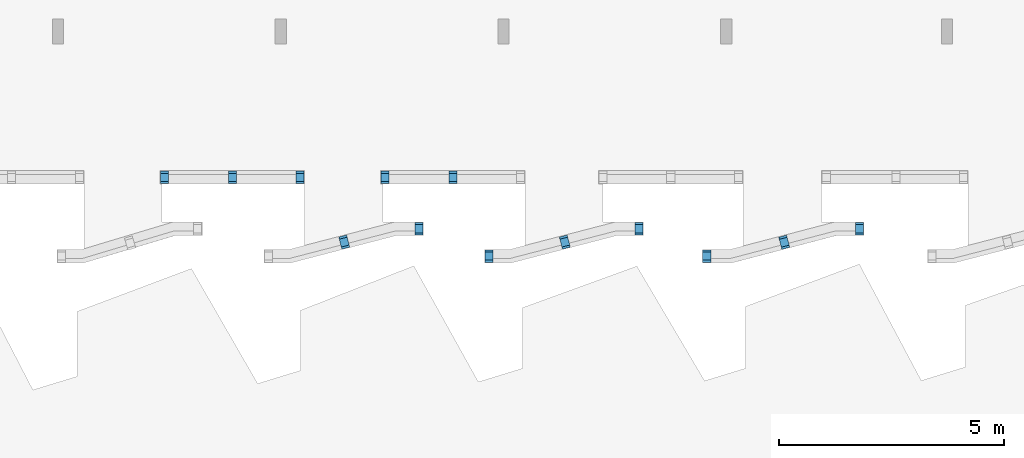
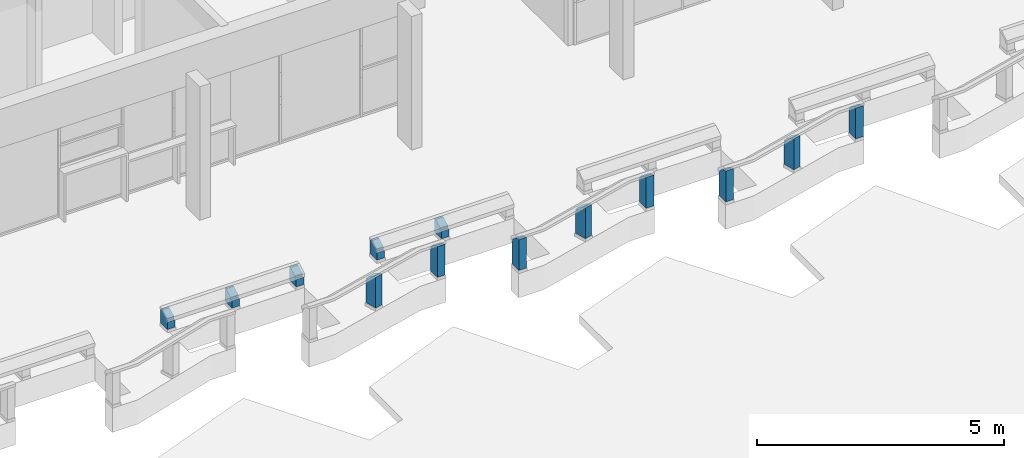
# One storey, part 94 of 117: 13 walls, 13 openings.
"""IFC4 building model written with IfcOpenShell, lengths in metres."""

import ifcopenshell
import ifcopenshell.guid

model = None  # the IFC model being written
_history = None  # IfcOwnerHistory: only IFC2X3 demands one
_inside = {}  # id of a spatial element -> (the spatial element, [elements in it])
_under = {}  # id of a project, library or spatial element -> (it, [spatial elements below it])
_declared = {}  # id of a project -> (the project, [libraries it declares])
_typed = {}  # id of a type object -> (the type object, [elements of that type])
_made_of = {}  # id of a material, layer set ... -> (it, [elements and type objects made of it])


def new_model(schema):
    """Start an empty IFC model of exactly this schema.

    Asked for "IFC4X3", IfcOpenShell would pick the latest addendum, in which some entities
    have other attributes; the version numbers below select the first issue.
    IFC2X3 requires an IfcOwnerHistory on every rooted entity: one is made here for all.
    """
    global model, _history
    if schema == "IFC4X3":
        model = ifcopenshell.file(schema_version=(4, 3, 0, 0))
    else:
        model = ifcopenshell.file(schema=schema)
    _inside.clear()
    _under.clear()
    _declared.clear()
    _typed.clear()
    _made_of.clear()
    _history = None
    if model.schema == "IFC2X3":
        org = make("IfcOrganization", Name="unknown")
        user = make(
            "IfcPersonAndOrganization",
            ThePerson=make("IfcPerson", FamilyName="unknown"),
            TheOrganization=org,
        )
        app = make(
            "IfcApplication",
            ApplicationDeveloper=org,
            Version="unknown",
            ApplicationFullName="unknown",
            ApplicationIdentifier="unknown",
        )
        _history = make(
            "IfcOwnerHistory",
            OwningUser=user,
            OwningApplication=app,
            ChangeAction="ADDED",
            CreationDate=0,
        )
    return model


def make(cls, **values):
    """One entity of the class cls with the attributes given. An attribute that is None is left unset."""
    return model.create_entity(
        cls, **{name: value for name, value in values.items() if value is not None}
    )


def entity(cls, *values):
    """Any entity or typed value of the class cls, its attributes in the order of the schema. None: left unset."""
    e = model.create_entity(cls)
    for i, value in enumerate(values):
        if value is not None:
            e[i] = value
    return e


def rooted(cls, **values):
    """An entity with a GlobalId (a new one), such as an element, a storey or a relation."""
    return make(cls, GlobalId=ifcopenshell.guid.new(), OwnerHistory=_history, **values)


def si_unit(unit_type, name, prefix=None):
    """IfcSIUnit, for example si_unit("LENGTHUNIT", "METRE", prefix="MILLI")."""
    return make("IfcSIUnit", UnitType=unit_type, Prefix=prefix, Name=name)


def converted_unit(unit_type, name, factor, base, dimensions=None, offset=None):
    """IfcConversionBasedUnit, such as the inch: factor (a typed value) times the base unit."""
    return make(
        "IfcConversionBasedUnit"
        if offset is None
        else "IfcConversionBasedUnitWithOffset",
        ConversionOffset=offset,
        Dimensions=None
        if dimensions is None
        else entity("IfcDimensionalExponents", *dimensions),
        UnitType=unit_type,
        Name=name,
        ConversionFactor=make(
            "IfcMeasureWithUnit", ValueComponent=factor, UnitComponent=base
        ),
    )


def derived_unit(unit_type, elements):
    """IfcDerivedUnit: a product of units, each with its exponent."""
    return make(
        "IfcDerivedUnit",
        Elements=[
            make("IfcDerivedUnitElement", Unit=unit, Exponent=power)
            for unit, power in elements
        ],
        UnitType=unit_type,
    )


def assignment(units):
    """IfcUnitAssignment: the units of a project."""
    return None if units is None else make("IfcUnitAssignment", Units=units)


def point(xyz):
    """IfcCartesianPoint."""
    return None if xyz is None else make("IfcCartesianPoint", Coordinates=xyz)


def direction(xyz):
    """IfcDirection."""
    return None if xyz is None else make("IfcDirection", DirectionRatios=xyz)


def frame(location, z_axis=None, x_axis=None):
    """IfcAxis2Placement3D, a coordinate frame: its origin and axes. An axis left out is left unset."""
    return make(
        "IfcAxis2Placement3D",
        Location=point(location),
        Axis=direction(z_axis),
        RefDirection=direction(x_axis),
    )


def origin():
    """The frame at (0, 0, 0) with its axes left unset."""
    return frame((0.0, 0.0, 0.0))


def place(relative_to, where):
    """IfcLocalPlacement: puts the frame where relative to a parent placement (None: the world)."""
    return make(
        "IfcLocalPlacement", PlacementRelTo=relative_to, RelativePlacement=where
    )


def context(
    kind, dimensions, precision=None, world=None, true_north=None, identifier=None
):
    """IfcGeometricRepresentationContext, for example the 3D "Model" context."""
    return make(
        "IfcGeometricRepresentationContext",
        ContextIdentifier=identifier,
        ContextType=kind,
        CoordinateSpaceDimension=dimensions,
        Precision=precision,
        WorldCoordinateSystem=world,
        TrueNorth=true_north,
    )


def subcontext(parent, identifier, kind, view, scale=None):
    """IfcGeometricRepresentationSubContext, for example "Body" below "Model"."""
    return make(
        "IfcGeometricRepresentationSubContext",
        ContextIdentifier=identifier,
        ContextType=kind,
        ParentContext=parent,
        TargetScale=scale,
        TargetView=view,
    )


def project(units=None, contexts=None):
    """IfcProject with its units and contexts."""
    return rooted(
        "IfcProject",
        Name="project",
        RepresentationContexts=contexts,
        UnitsInContext=assignment(units),
    )


def spatial(cls, under=None, at=None, **own):
    """A site, building, storey or space (cls), placed at a placement, below another one or the project."""
    s = rooted(cls, ObjectPlacement=at, **own)
    if under is not None:
        _under.setdefault(under.id(), (under, []))[1].append(s)
    return s


def point_list(points):
    """IfcCartesianPointList2D or 3D."""
    cls = (
        "IfcCartesianPointList2D" if len(points[0]) == 2 else "IfcCartesianPointList3D"
    )
    return make(cls, CoordList=points)


def indexed_curve(points, segments=None, self_intersect=None):
    """IfcIndexedPolyCurve: lines and arcs through numbered points (the first is 1)."""
    return make(
        "IfcIndexedPolyCurve",
        Points=point_list(points),
        Segments=segments,
        SelfIntersect=self_intersect,
    )


def outline(outer, holes=None, kind="AREA"):
    """IfcArbitraryClosedProfileDef: a profile drawn as a closed curve; with holes, ...WithVoids."""
    if holes is None:
        return make("IfcArbitraryClosedProfileDef", ProfileType=kind, OuterCurve=outer)
    return make(
        "IfcArbitraryProfileDefWithVoids",
        ProfileType=kind,
        OuterCurve=outer,
        InnerCurves=holes,
    )


def extrude(swept, where, along, depth):
    """IfcExtrudedAreaSolid: the profile swept, set in the frame where, extruded along a direction by depth."""
    return make(
        "IfcExtrudedAreaSolid",
        SweptArea=swept,
        Position=where,
        ExtrudedDirection=direction(along),
        Depth=depth,
    )


def polygons(points, faces, closed=None, point_numbers=None):
    """IfcPolygonalFaceSet: a face is its outer loop, then its inner loops; points numbered from 1."""
    made = []
    for loops in faces:
        if len(loops) == 1:
            made.append(make("IfcIndexedPolygonalFace", CoordIndex=loops[0]))
        else:
            made.append(
                make(
                    "IfcIndexedPolygonalFaceWithVoids",
                    CoordIndex=loops[0],
                    InnerCoordIndices=loops[1:],
                )
            )
    return make(
        "IfcPolygonalFaceSet",
        Coordinates=point_list(points),
        Closed=closed,
        Faces=made,
        PnIndex=point_numbers,
    )


def shape(context_of_items, identifier, shape_type, items):
    """IfcShapeRepresentation: the items that make up one representation, for example the "Body"."""
    return make(
        "IfcShapeRepresentation",
        ContextOfItems=context_of_items,
        RepresentationIdentifier=identifier,
        RepresentationType=shape_type,
        Items=items,
    )


def material(Name=None, Category=None):
    """IfcMaterial."""
    return make("IfcMaterial", Name=Name, Category=Category)


def made_of(thing, what):
    """Note that an element or type object is made of a material, layer set ...; save() writes the relation."""
    if what is not None:
        _made_of.setdefault(what.id(), (what, []))[1].append(thing)
    return thing


def type_object(cls, material=None, **own):
    """A type object (cls), such as IfcWallType, which elements share."""
    return made_of(rooted(cls, **own), material)


def element(
    cls,
    number,
    at=None,
    inside=None,
    cuts=None,
    type_object=None,
    material=None,
    context=None,
    identifier="Body",
    shape_type=None,
    held_by="IfcProductDefinitionShape",
    body=None,
    shapes=None,
    **own,
):
    """One element of the class cls, such as IfcWall. Its Tag is "e" and its number.

    at: its placement. inside: the storey or other place that contains it. cuts: it is an
    opening in that element (IfcRelVoidsElement). A single representation is given by context,
    identifier, shape_type and body (its items); several are given by shapes. held_by: the class
    of the entity that holds the representations. save() writes the other relations.
    """
    e = rooted(cls, Tag="e%d" % number, ObjectPlacement=at, **own)
    if body is not None:
        shapes = [shape(context, identifier, shape_type, body)]
    if shapes is not None:
        e.Representation = make(held_by, Representations=shapes)
    if inside is not None:
        _inside.setdefault(inside.id(), (inside, []))[1].append(e)
    if cuts is not None:
        rooted(
            "IfcRelVoidsElement", RelatingBuildingElement=cuts, RelatedOpeningElement=e
        )
    if type_object is not None:
        _typed.setdefault(type_object.id(), (type_object, []))[1].append(e)
    return made_of(e, material)


def aggregate(whole, parts):
    """IfcRelAggregates: a whole, such as a stair, and the parts it consists of."""
    return rooted("IfcRelAggregates", RelatingObject=whole, RelatedObjects=parts)


def save(model, path):
    """Write the relations noted so far, then the file.

    IfcRelAggregates (storeys below a building ...), IfcRelContainedInSpatialStructure (elements
    in a storey), IfcRelDefinesByType, IfcRelAssociatesMaterial and IfcRelDeclares: one each for
    every whole, place, type object, material and project.
    """
    for whole, parts in _under.values():
        aggregate(whole, parts)
    for where, things in _inside.values():
        rooted(
            "IfcRelContainedInSpatialStructure",
            RelatedElements=things,
            RelatingStructure=where,
        )
    for kind, things in _typed.values():
        rooted("IfcRelDefinesByType", RelatedObjects=things, RelatingType=kind)
    for what, things in _made_of.values():
        rooted("IfcRelAssociatesMaterial", RelatedObjects=things, RelatingMaterial=what)
    for by, libraries in _declared.values():
        rooted("IfcRelDeclares", RelatingContext=by, RelatedDefinitions=libraries)
    model.write(path)


model = new_model("IFC4")

# Units and contexts
model_context = context("Model", 3, precision=1e-05, world=origin(), true_north=direction((6.123031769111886e-17, 1.0)))
body_context = subcontext(model_context, "Body", "Model", "MODEL_VIEW")
ifc_project = project(units=[si_unit("LENGTHUNIT", "METRE"), si_unit("AREAUNIT", "SQUARE_METRE"), si_unit("VOLUMEUNIT", "CUBIC_METRE"), converted_unit("PLANEANGLEUNIT", "DEGREE", entity("IfcRatioMeasure", 0.017453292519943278), si_unit("PLANEANGLEUNIT", "RADIAN"), dimensions=[0, 0, 0, 0, 0, 0, 0]), si_unit("MASSUNIT", "GRAM", prefix="KILO"), derived_unit("MASSDENSITYUNIT", [(si_unit("MASSUNIT", "GRAM", prefix="KILO"), 1), (si_unit("LENGTHUNIT", "METRE"), -3)]), derived_unit("MOMENTOFINERTIAUNIT", [(si_unit("LENGTHUNIT", "METRE"), 4)]), si_unit("TIMEUNIT", "SECOND"), si_unit("FREQUENCYUNIT", "HERTZ"), si_unit("THERMODYNAMICTEMPERATUREUNIT", "DEGREE_CELSIUS"), derived_unit("THERMALTRANSMITTANCEUNIT", [(si_unit("MASSUNIT", "GRAM", prefix="KILO"), 1), (si_unit("THERMODYNAMICTEMPERATUREUNIT", "KELVIN"), -1), (si_unit("TIMEUNIT", "SECOND"), -3)]), derived_unit("VOLUMETRICFLOWRATEUNIT", [(si_unit("LENGTHUNIT", "METRE"), 3), (si_unit("TIMEUNIT", "SECOND"), -1)]), derived_unit("MASSFLOWRATEUNIT", [(si_unit("MASSUNIT", "GRAM", prefix="KILO"), 1), (si_unit("TIMEUNIT", "SECOND"), -1)]), derived_unit("ROTATIONALFREQUENCYUNIT", [(si_unit("TIMEUNIT", "SECOND"), -1)]), si_unit("ELECTRICCURRENTUNIT", "AMPERE"), si_unit("ELECTRICVOLTAGEUNIT", "VOLT"), si_unit("POWERUNIT", "WATT"), si_unit("FORCEUNIT", "NEWTON", prefix="KILO"), si_unit("ILLUMINANCEUNIT", "LUX"), si_unit("LUMINOUSFLUXUNIT", "LUMEN"), si_unit("LUMINOUSINTENSITYUNIT", "CANDELA"), derived_unit("USERDEFINED", [(si_unit("MASSUNIT", "GRAM", prefix="KILO"), -1), (si_unit("LENGTHUNIT", "METRE"), -2), (si_unit("TIMEUNIT", "SECOND"), 3), (si_unit("LUMINOUSFLUXUNIT", "LUMEN"), 1)]), derived_unit("SOUNDPOWERUNIT", [(si_unit("MASSUNIT", "GRAM", prefix="KILO"), 1), (si_unit("LENGTHUNIT", "METRE"), 2), (si_unit("TIMEUNIT", "SECOND"), -3)]), derived_unit("SOUNDPRESSUREUNIT", [(si_unit("MASSUNIT", "GRAM", prefix="KILO"), 1), (si_unit("LENGTHUNIT", "METRE"), -1), (si_unit("TIMEUNIT", "SECOND"), -2)]), derived_unit("LINEARVELOCITYUNIT", [(si_unit("LENGTHUNIT", "METRE"), 1), (si_unit("TIMEUNIT", "SECOND"), -1)]), si_unit("PRESSUREUNIT", "PASCAL"), derived_unit("USERDEFINED", [(si_unit("LENGTHUNIT", "METRE"), -2), (si_unit("MASSUNIT", "GRAM", prefix="KILO"), 1), (si_unit("TIMEUNIT", "SECOND"), -2)]), derived_unit("LINEARFORCEUNIT", [(si_unit("MASSUNIT", "GRAM", prefix="KILO"), 1), (si_unit("LENGTHUNIT", "METRE"), 1), (si_unit("TIMEUNIT", "SECOND"), -2), (si_unit("LENGTHUNIT", "METRE"), -1)]), derived_unit("PLANARFORCEUNIT", [(si_unit("MASSUNIT", "GRAM", prefix="KILO"), 1), (si_unit("LENGTHUNIT", "METRE"), 1), (si_unit("TIMEUNIT", "SECOND"), -2), (si_unit("LENGTHUNIT", "METRE"), -2)])], contexts=[model_context])

# Site, building, storey
site_placement = place(None, origin())
site = spatial("IfcSite", under=ifc_project, at=site_placement, Name="Superficie", CompositionType="ELEMENT")
building_placement = place(site_placement, origin())
building = spatial("IfcBuilding", under=site, at=building_placement, CompositionType="ELEMENT")
storey_placement = place(building_placement, origin())
storey = spatial("IfcBuildingStorey", under=building, at=storey_placement, Name="Nivel 0", CompositionType="ELEMENT", Elevation=0.0)

# Wall, opening
ifc_material = material(Name="Muro por defecto", Category="Varios")
wall_type = type_object("IfcWallType", Name="Muro básico:Por defecto - 18 cm 2", PredefinedType="STANDARD")
wall_1_placement = place(storey_placement, frame((-11.31797325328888, -6.154170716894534, 0.07000000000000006), z_axis=(0.0, 0.0, 1.0), x_axis=(0.0, -1.0, 0.0)))
wall_1 = element("IfcWall", 1, at=wall_1_placement, inside=storey, type_object=wall_type, material=ifc_material, Name="Muro básico:Por defecto - 18 cm 2", ObjectType="Muro básico:Por defecto - 18 cm 2", PredefinedType="NOTDEFINED", context=body_context, shape_type="Tessellation", body=[
    polygons([(0.0, -0.0900000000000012, 0.0), (0.27999999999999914, -0.0900000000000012, 0.0), (0.27999999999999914, -0.0900000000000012, 0.17999999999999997), (0.22999999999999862, -0.0900000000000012, 0.17999999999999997), (0.22999999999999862, -0.0900000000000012, 0.24069791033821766), (0.04999999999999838, -0.0900000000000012, 0.3399999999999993), (0.0, -0.0900000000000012, 0.3399999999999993), (0.0, 0.08999999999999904, 0.0), (0.0, 0.08999999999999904, 0.3399999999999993), (0.04999999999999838, 0.08999999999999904, 0.3399999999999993), (0.22999999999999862, 0.08999999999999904, 0.24069791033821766), (0.22999999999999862, 0.08999999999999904, 0.17999999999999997), (0.27999999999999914, 0.08999999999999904, 0.17999999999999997), (0.27999999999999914, 0.08999999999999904, 0.0)], [[[1, 2, 3, 4, 5, 6, 7]], [[8, 9, 10, 11, 12, 13, 14]], [[2, 1, 8, 14]], [[1, 7, 9, 8]], [[3, 2, 14, 13]], [[4, 3, 13, 12]], [[5, 4, 12, 11]], [[6, 5, 11, 10]], [[7, 6, 10, 9]]], closed=True),
])
opening_1_placement = place(wall_1_placement, origin())
element("IfcOpeningElement", 2, at=opening_1_placement, cuts=wall_1, Name="Muro básico:Por defecto - 18 cm 2", PredefinedType="OPENING", context=body_context, shape_type="SweptSolid", body=[
    extrude(outline(indexed_curve([(-0.03681012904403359, -0.012864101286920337), (0.041829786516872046, -0.012864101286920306), (-0.005019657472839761, 0.025728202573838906), (-0.03681012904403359, -0.012864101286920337)], self_intersect=False)), frame((0.24666666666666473, 0.08999999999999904, 0.20023263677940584), z_axis=(0.0, -1.0, 0.0), x_axis=(-0.6358094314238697, 0.0, 0.771846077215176)), (0.0, 0.0, 1.0), 0.18),
])

wall_2_placement = place(storey_placement, frame((-9.81308711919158, -6.154170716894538, 0.07000000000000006), z_axis=(0.0, 0.0, 1.0), x_axis=(0.0, -1.0, 0.0)))
wall_2 = element("IfcWall", 3, at=wall_2_placement, inside=storey, type_object=wall_type, material=ifc_material, Name="Muro básico:Por defecto - 18 cm 2", ObjectType="Muro básico:Por defecto - 18 cm 2", PredefinedType="NOTDEFINED", context=body_context, shape_type="Tessellation", body=[
    polygons([(0.0, -0.08999999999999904, 0.0), (0.27999999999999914, -0.08999999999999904, 0.0), (0.27999999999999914, -0.08999999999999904, 0.17999999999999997), (0.22999999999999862, -0.08999999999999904, 0.17999999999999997), (0.22999999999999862, -0.08999999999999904, 0.24069791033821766), (0.04999999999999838, -0.08999999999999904, 0.3399999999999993), (0.0, -0.08999999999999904, 0.3399999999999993), (0.0, 0.09000000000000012, 0.0), (0.0, 0.09000000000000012, 0.3399999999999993), (0.04999999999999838, 0.09000000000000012, 0.3399999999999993), (0.22999999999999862, 0.09000000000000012, 0.24069791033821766), (0.22999999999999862, 0.09000000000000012, 0.17999999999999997), (0.27999999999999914, 0.09000000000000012, 0.17999999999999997), (0.27999999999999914, 0.09000000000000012, 0.0)], [[[1, 2, 3, 4, 5, 6, 7]], [[8, 9, 10, 11, 12, 13, 14]], [[2, 1, 8, 14]], [[1, 7, 9, 8]], [[3, 2, 14, 13]], [[4, 3, 13, 12]], [[5, 4, 12, 11]], [[6, 5, 11, 10]], [[7, 6, 10, 9]]], closed=True),
])
opening_2_placement = place(wall_2_placement, origin())
element("IfcOpeningElement", 4, at=opening_2_placement, cuts=wall_2, Name="Muro básico:Por defecto - 18 cm 2", PredefinedType="OPENING", context=body_context, shape_type="SweptSolid", body=[
    extrude(outline(indexed_curve([(-0.03681012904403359, -0.012864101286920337), (0.041829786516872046, -0.012864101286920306), (-0.005019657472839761, 0.025728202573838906), (-0.03681012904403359, -0.012864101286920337)], self_intersect=False)), frame((0.24666666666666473, 0.09000000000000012, 0.20023263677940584), z_axis=(0.0, -1.0, 0.0), x_axis=(-0.6358094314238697, 0.0, 0.771846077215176)), (0.0, 0.0, 1.0), 0.18),
])

wall_3_placement = place(storey_placement, frame((-8.308200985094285, -6.1541707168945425, 0.07000000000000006), z_axis=(0.0, 0.0, 1.0), x_axis=(0.0, -1.0, 0.0)))
wall_3 = element("IfcWall", 5, at=wall_3_placement, inside=storey, type_object=wall_type, material=ifc_material, Name="Muro básico:Por defecto - 18 cm 2", ObjectType="Muro básico:Por defecto - 18 cm 2", PredefinedType="NOTDEFINED", context=body_context, shape_type="Tessellation", body=[
    polygons([(0.0, -0.0900000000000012, 0.0), (0.27999999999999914, -0.0900000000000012, 0.0), (0.27999999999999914, -0.0900000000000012, 0.17999999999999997), (0.22999999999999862, -0.0900000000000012, 0.17999999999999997), (0.22999999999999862, -0.0900000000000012, 0.24069791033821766), (0.04999999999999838, -0.0900000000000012, 0.3399999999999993), (0.0, -0.0900000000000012, 0.3399999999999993), (0.0, 0.09000000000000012, 0.0), (0.0, 0.09000000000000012, 0.3399999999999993), (0.04999999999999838, 0.09000000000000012, 0.3399999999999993), (0.22999999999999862, 0.09000000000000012, 0.24069791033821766), (0.22999999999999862, 0.09000000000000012, 0.17999999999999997), (0.27999999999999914, 0.09000000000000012, 0.17999999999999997), (0.27999999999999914, 0.09000000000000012, 0.0)], [[[1, 2, 3, 4, 5, 6, 7]], [[8, 9, 10, 11, 12, 13, 14]], [[2, 1, 8, 14]], [[1, 7, 9, 8]], [[3, 2, 14, 13]], [[4, 3, 13, 12]], [[5, 4, 12, 11]], [[6, 5, 11, 10]], [[7, 6, 10, 9]]], closed=True),
])
opening_3_placement = place(wall_3_placement, origin())
element("IfcOpeningElement", 6, at=opening_3_placement, cuts=wall_3, Name="Muro básico:Por defecto - 18 cm 2", PredefinedType="OPENING", context=body_context, shape_type="SweptSolid", body=[
    extrude(outline(indexed_curve([(-0.03681012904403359, -0.012864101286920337), (0.041829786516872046, -0.012864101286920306), (-0.005019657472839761, 0.025728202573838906), (-0.03681012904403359, -0.012864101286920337)], self_intersect=False)), frame((0.24666666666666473, 0.09000000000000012, 0.20023263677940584), z_axis=(0.0, -1.0, 0.0), x_axis=(-0.6358094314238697, 0.0, 0.771846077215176)), (0.0, 0.0, 1.0), 0.18),
])

wall_4_placement = place(storey_placement, frame((-6.4179732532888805, -6.15417071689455, 0.07000000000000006), z_axis=(0.0, 0.0, 1.0), x_axis=(0.0, -1.0, 0.0)))
wall_4 = element("IfcWall", 7, at=wall_4_placement, inside=storey, type_object=wall_type, material=ifc_material, Name="Muro básico:Por defecto - 18 cm 2", ObjectType="Muro básico:Por defecto - 18 cm 2", PredefinedType="NOTDEFINED", context=body_context, shape_type="Tessellation", body=[
    polygons([(0.0, -0.0900000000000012, 0.0), (0.27999999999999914, -0.0900000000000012, 0.0), (0.27999999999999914, -0.0900000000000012, 0.17999999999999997), (0.22999999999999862, -0.0900000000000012, 0.17999999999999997), (0.22999999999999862, -0.0900000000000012, 0.24069791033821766), (0.04999999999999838, -0.0900000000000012, 0.3399999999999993), (0.0, -0.0900000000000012, 0.3399999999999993), (0.0, 0.09000000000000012, 0.0), (0.0, 0.09000000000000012, 0.3399999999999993), (0.04999999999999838, 0.09000000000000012, 0.3399999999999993), (0.22999999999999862, 0.09000000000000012, 0.24069791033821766), (0.22999999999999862, 0.09000000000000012, 0.17999999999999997), (0.27999999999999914, 0.09000000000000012, 0.17999999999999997), (0.27999999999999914, 0.09000000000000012, 0.0)], [[[1, 2, 3, 4, 5, 6, 7]], [[8, 9, 10, 11, 12, 13, 14]], [[2, 1, 8, 14]], [[1, 7, 9, 8]], [[3, 2, 14, 13]], [[4, 3, 13, 12]], [[5, 4, 12, 11]], [[6, 5, 11, 10]], [[7, 6, 10, 9]]], closed=True),
])
opening_4_placement = place(wall_4_placement, origin())
element("IfcOpeningElement", 8, at=opening_4_placement, cuts=wall_4, Name="Muro básico:Por defecto - 18 cm 2", PredefinedType="OPENING", context=body_context, shape_type="SweptSolid", body=[
    extrude(outline(indexed_curve([(-0.036810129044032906, -0.0128641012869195), (0.04182978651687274, -0.012864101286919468), (-0.005019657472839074, 0.025728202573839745), (-0.036810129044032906, -0.0128641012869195)], self_intersect=False)), frame((0.2466666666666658, 0.09000000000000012, 0.20023263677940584), z_axis=(0.0, -1.0, 0.0), x_axis=(-0.6358094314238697, 0.0, 0.771846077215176)), (0.0, 0.0, 1.0), 0.18),
])

wall_5_placement = place(storey_placement, frame((-4.91308711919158, -6.154170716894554, 0.07000000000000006), z_axis=(0.0, 0.0, 1.0), x_axis=(0.0, -1.0, 0.0)))
wall_5 = element("IfcWall", 9, at=wall_5_placement, inside=storey, type_object=wall_type, material=ifc_material, Name="Muro básico:Por defecto - 18 cm 2", ObjectType="Muro básico:Por defecto - 18 cm 2", PredefinedType="NOTDEFINED", context=body_context, shape_type="Tessellation", body=[
    polygons([(0.0, -0.09000000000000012, 0.0), (0.27999999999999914, -0.09000000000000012, 0.0), (0.27999999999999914, -0.09000000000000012, 0.17999999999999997), (0.22999999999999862, -0.09000000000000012, 0.17999999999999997), (0.22999999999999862, -0.09000000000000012, 0.24069791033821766), (0.04999999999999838, -0.09000000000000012, 0.3399999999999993), (0.0, -0.09000000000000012, 0.3399999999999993), (0.0, 0.09000000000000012, 0.0), (0.0, 0.09000000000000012, 0.3399999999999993), (0.04999999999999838, 0.09000000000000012, 0.3399999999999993), (0.22999999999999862, 0.09000000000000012, 0.24069791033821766), (0.22999999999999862, 0.09000000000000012, 0.17999999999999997), (0.27999999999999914, 0.09000000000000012, 0.17999999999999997), (0.27999999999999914, 0.09000000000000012, 0.0)], [[[1, 2, 3, 4, 5, 6, 7]], [[8, 9, 10, 11, 12, 13, 14]], [[2, 1, 8, 14]], [[1, 7, 9, 8]], [[3, 2, 14, 13]], [[4, 3, 13, 12]], [[5, 4, 12, 11]], [[6, 5, 11, 10]], [[7, 6, 10, 9]]], closed=True),
])
opening_5_placement = place(wall_5_placement, origin())
element("IfcOpeningElement", 10, at=opening_5_placement, cuts=wall_5, Name="Muro básico:Por defecto - 18 cm 2", PredefinedType="OPENING", context=body_context, shape_type="SweptSolid", body=[
    extrude(outline(indexed_curve([(-0.036810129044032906, -0.0128641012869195), (0.04182978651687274, -0.012864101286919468), (-0.005019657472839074, 0.025728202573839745), (-0.036810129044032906, -0.0128641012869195)], self_intersect=False)), frame((0.2466666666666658, 0.09000000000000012, 0.20023263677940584), z_axis=(0.0, -1.0, 0.0), x_axis=(-0.6358094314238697, 0.0, 0.771846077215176)), (0.0, 0.0, 1.0), 0.18),
])

wall_6_placement = place(storey_placement, frame((-5.663200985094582, -7.5741707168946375, 0.07000000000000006), z_axis=(0.0, 0.0, 1.0), x_axis=(0.0, 1.0, 0.0)))
wall_6 = element("IfcWall", 11, at=wall_6_placement, inside=storey, type_object=wall_type, material=ifc_material, Name="Muro básico:Por defecto - 18 cm 2", ObjectType="Muro básico:Por defecto - 18 cm 2", PredefinedType="NOTDEFINED", context=body_context, shape_type="Tessellation", body=[
    polygons([(0.0, -0.08999999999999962, 0.0), (0.2799999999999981, -0.08999999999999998, 0.0), (0.2799999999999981, -0.08999999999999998, 0.6000000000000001), (0.22999999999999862, -0.08999999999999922, 0.6000000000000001), (0.22999999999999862, -0.08999999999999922, 0.6606979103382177), (0.0499999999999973, -0.0899999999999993, 0.7599999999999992), (0.0, -0.08999999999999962, 0.7599999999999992), (0.0, 0.09000000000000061, 0.0), (0.0, 0.09000000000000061, 0.7599999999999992), (0.0499999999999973, 0.09000000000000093, 0.7599999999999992), (0.22999999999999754, 0.09000000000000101, 0.6606979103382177), (0.22999999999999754, 0.09000000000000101, 0.6000000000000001), (0.279999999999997, 0.09000000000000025, 0.6000000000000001), (0.279999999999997, 0.09000000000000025, 0.0)], [[[1, 2, 3, 4, 5, 6, 7]], [[8, 9, 10, 11, 12, 13, 14]], [[2, 1, 8, 14]], [[1, 7, 9, 8]], [[3, 2, 14, 13]], [[4, 3, 13, 12]], [[5, 4, 12, 11]], [[6, 5, 11, 10]], [[7, 6, 10, 9]]], closed=True),
])
opening_6_placement = place(wall_6_placement, origin())
element("IfcOpeningElement", 12, at=opening_6_placement, cuts=wall_6, Name="Muro básico:Por defecto - 18 cm 2", PredefinedType="OPENING", context=body_context, shape_type="SweptSolid", body=[
    extrude(outline(indexed_curve([(-0.036810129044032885, -0.012864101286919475), (0.04182978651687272, -0.0128641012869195), (-0.005019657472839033, 0.025728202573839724), (-0.036810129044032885, -0.012864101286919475)], self_intersect=False)), frame((0.24666666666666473, 0.09000000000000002, 0.6202326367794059), z_axis=(0.0, -1.0, 0.0), x_axis=(-0.6358094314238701, 0.0, 0.7718460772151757)), (0.0, 0.0, 1.0), 0.18),
])

wall_7_placement = place(storey_placement, frame((-7.292651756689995, -7.866896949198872, 0.06999999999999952), z_axis=(0.0, 0.0, 1.0), x_axis=(-0.2512480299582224, 0.9679227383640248, 0.0)))
wall_7 = element("IfcWall", 13, at=wall_7_placement, inside=storey, type_object=wall_type, material=ifc_material, Name="Muro básico:Por defecto - 18 cm 2", ObjectType="Muro básico:Por defecto - 18 cm 2", PredefinedType="NOTDEFINED", context=body_context, shape_type="Tessellation", body=[
    polygons([(-1.0828671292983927e-15, -0.09000000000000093, 0.0), (0.2800000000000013, -0.09000000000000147, 0.0), (0.2800000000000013, -0.09000000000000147, 0.6000000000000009), (0.2300000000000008, -0.08999999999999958, 0.6000000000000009), (0.2300000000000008, -0.08999999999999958, 0.6606979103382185), (0.050000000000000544, -0.08999999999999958, 0.7600000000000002), (-1.0828671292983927e-15, -0.09000000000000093, 0.7600000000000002), (-1.0828671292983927e-15, 0.09000000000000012, 0.0), (-1.0828671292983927e-15, 0.09000000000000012, 0.7600000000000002), (0.04999999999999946, 0.08999999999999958, 0.7600000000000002), (0.2300000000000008, 0.0899999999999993, 0.6606979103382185), (0.2300000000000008, 0.0899999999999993, 0.6000000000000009), (0.2800000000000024, 0.08999999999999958, 0.6000000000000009), (0.2800000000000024, 0.08999999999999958, 0.0)], [[[1, 2, 3, 4, 5, 6, 7]], [[8, 9, 10, 11, 12, 13, 14]], [[2, 1, 8, 14]], [[1, 7, 9, 8]], [[3, 2, 14, 13]], [[4, 3, 13, 12]], [[5, 4, 12, 11]], [[6, 5, 11, 10]], [[7, 6, 10, 9]]], closed=True),
])
opening_7_placement = place(wall_7_placement, origin())
element("IfcOpeningElement", 14, at=opening_7_placement, cuts=wall_7, Name="Muro básico:Por defecto - 18 cm 2", PredefinedType="OPENING", context=body_context, shape_type="SweptSolid", body=[
    extrude(outline(indexed_curve([(-0.036810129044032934, -0.012864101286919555), (0.04182978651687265, -0.012864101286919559), (-0.005019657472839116, 0.025728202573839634), (-0.036810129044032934, -0.012864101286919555)], self_intersect=False)), frame((0.2466666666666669, 0.0899999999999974, 0.6202326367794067), z_axis=(0.0, -1.0, 0.0), x_axis=(-0.6358094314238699, 0.0, 0.7718460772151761)), (0.0, 0.0, 1.0), 0.17999999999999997),
])

wall_8_placement = place(storey_placement, frame((-0.7828593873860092, -7.574170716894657, 0.07000000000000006), z_axis=(0.0, 0.0, 1.0), x_axis=(0.0, 1.0, 0.0)))
wall_8 = element("IfcWall", 15, at=wall_8_placement, inside=storey, type_object=wall_type, material=ifc_material, Name="Muro básico:Por defecto - 18 cm 2", ObjectType="Muro básico:Por defecto - 18 cm 2", PredefinedType="NOTDEFINED", context=body_context, shape_type="Tessellation", body=[
    polygons([(2.1657342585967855e-15, -0.09000000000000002, 0.0), (0.27999999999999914, -0.08999999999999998, 0.0), (0.27999999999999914, -0.08999999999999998, 0.6000000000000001), (0.22999999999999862, -0.09000000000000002, 0.6000000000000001), (0.22999999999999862, -0.09000000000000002, 0.6606979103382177), (0.04999999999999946, -0.08999999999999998, 0.7599999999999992), (2.1657342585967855e-15, -0.09000000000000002, 0.7599999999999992), (1.0828671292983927e-15, 0.08999999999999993, 0.0), (1.0828671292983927e-15, 0.08999999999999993, 0.7599999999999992), (0.04999999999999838, 0.08999999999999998, 0.7599999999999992), (0.22999999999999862, 0.08999999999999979, 0.6606979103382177), (0.22999999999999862, 0.08999999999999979, 0.6000000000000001), (0.27999999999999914, 0.08999999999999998, 0.6000000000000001), (0.27999999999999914, 0.08999999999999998, 0.0)], [[[1, 2, 3, 4, 5, 6, 7]], [[8, 9, 10, 11, 12, 13, 14]], [[2, 1, 8, 14]], [[1, 7, 9, 8]], [[3, 2, 14, 13]], [[4, 3, 13, 12]], [[5, 4, 12, 11]], [[6, 5, 11, 10]], [[7, 6, 10, 9]]], closed=True),
])
opening_8_placement = place(wall_8_placement, origin())
element("IfcOpeningElement", 16, at=opening_8_placement, cuts=wall_8, Name="Muro básico:Por defecto - 18 cm 2", PredefinedType="OPENING", context=body_context, shape_type="SweptSolid", body=[
    extrude(outline(indexed_curve([(-0.03681012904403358, -0.012864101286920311), (0.041829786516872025, -0.012864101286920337), (-0.0050196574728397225, 0.025728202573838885), (-0.03681012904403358, -0.012864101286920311)], self_intersect=False)), frame((0.24666666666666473, 0.08999999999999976, 0.6202326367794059), z_axis=(0.0, -1.0, 0.0), x_axis=(-0.6358094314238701, 0.0, 0.7718460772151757)), (0.0, 0.0, 1.0), 0.18),
])

wall_9_placement = place(storey_placement, frame((-2.3923101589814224, -7.866896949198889, 0.06999999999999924), z_axis=(0.0, 0.0, 1.0), x_axis=(-0.2512480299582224, 0.9679227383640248, 0.0)))
wall_9 = element("IfcWall", 17, at=wall_9_placement, inside=storey, type_object=wall_type, material=ifc_material, Name="Muro básico:Por defecto - 18 cm 2", ObjectType="Muro básico:Por defecto - 18 cm 2", PredefinedType="NOTDEFINED", context=body_context, shape_type="Tessellation", body=[
    polygons([(-1.0828671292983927e-15, -0.0899999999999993, 0.0), (0.2800000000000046, -0.08999999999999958, 0.0), (0.2800000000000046, -0.08999999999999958, 0.6000000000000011), (0.23000000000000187, -0.0899999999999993, 0.6000000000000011), (0.23000000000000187, -0.0899999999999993, 0.6606979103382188), (0.05000000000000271, -0.09000000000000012, 0.7600000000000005), (-1.0828671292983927e-15, -0.0899999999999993, 0.7600000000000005), (0.0, 0.09000000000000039, 0.0), (0.0, 0.09000000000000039, 0.7600000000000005), (0.05000000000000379, 0.08999999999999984, 0.7600000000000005), (0.23000000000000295, 0.09000000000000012, 0.6606979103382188), (0.23000000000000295, 0.09000000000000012, 0.6000000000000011), (0.2800000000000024, 0.08999999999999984, 0.6000000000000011), (0.2800000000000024, 0.08999999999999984, 0.0)], [[[1, 2, 3, 4, 5, 6, 7]], [[8, 9, 10, 11, 12, 13, 14]], [[2, 1, 8, 14]], [[1, 7, 9, 8]], [[3, 2, 14, 13]], [[4, 3, 13, 12]], [[5, 4, 12, 11]], [[6, 5, 11, 10]], [[7, 6, 10, 9]]], closed=True),
])
opening_9_placement = place(wall_9_placement, origin())
element("IfcOpeningElement", 18, at=opening_9_placement, cuts=wall_9, Name="Muro básico:Por defecto - 18 cm 2", PredefinedType="OPENING", context=body_context, shape_type="SweptSolid", body=[
    extrude(outline(indexed_curve([(-0.0368101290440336, -0.012864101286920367), (0.04182978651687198, -0.012864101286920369), (-0.005019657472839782, 0.025728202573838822), (-0.0368101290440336, -0.012864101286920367)], self_intersect=False)), frame((0.24666666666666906, 0.09000000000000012, 0.620232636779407), z_axis=(0.0, -1.0, 0.0), x_axis=(-0.6358094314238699, 0.0, 0.7718460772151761)), (0.0, 0.0, 1.0), 0.17999999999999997),
])

wall_10_placement = place(storey_placement, frame((-4.112859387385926, -8.184170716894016, 0.07000000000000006), z_axis=(0.0, 0.0, 1.0), x_axis=(0.0, 1.0, 0.0)))
wall_10 = element("IfcWall", 19, at=wall_10_placement, inside=storey, type_object=wall_type, material=ifc_material, Name="Muro básico:Por defecto - 18 cm 2", ObjectType="Muro básico:Por defecto - 18 cm 2", PredefinedType="NOTDEFINED", context=body_context, shape_type="Tessellation", body=[
    polygons([(1.0828671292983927e-15, -0.09000000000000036, 0.0), (0.28000000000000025, -0.09000000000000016, 0.0), (0.28000000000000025, -0.09000000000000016, 0.6000000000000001), (0.22999999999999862, -0.09000000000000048, 0.6000000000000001), (0.22999999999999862, -0.09000000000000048, 0.6606979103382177), (0.04999999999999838, -0.09000000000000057, 0.7599999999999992), (1.0828671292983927e-15, -0.09000000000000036, 0.7599999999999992), (2.1657342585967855e-15, 0.08999999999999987, 0.0), (2.1657342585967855e-15, 0.08999999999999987, 0.7599999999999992), (0.04999999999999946, 0.08999999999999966, 0.7599999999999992), (0.22999999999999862, 0.08999999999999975, 0.6606979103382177), (0.22999999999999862, 0.08999999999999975, 0.6000000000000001), (0.27999999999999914, 0.09000000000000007, 0.6000000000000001), (0.27999999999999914, 0.09000000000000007, 0.0)], [[[1, 2, 3, 4, 5, 6, 7]], [[8, 9, 10, 11, 12, 13, 14]], [[2, 1, 8, 14]], [[1, 7, 9, 8]], [[3, 2, 14, 13]], [[4, 3, 13, 12]], [[5, 4, 12, 11]], [[6, 5, 11, 10]], [[7, 6, 10, 9]]], closed=True),
])
opening_10_placement = place(wall_10_placement, origin())
element("IfcOpeningElement", 20, at=opening_10_placement, cuts=wall_10, Name="Muro básico:Por defecto - 18 cm 2", PredefinedType="OPENING", context=body_context, shape_type="SweptSolid", body=[
    extrude(outline(indexed_curve([(-0.036810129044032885, -0.012864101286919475), (0.04182978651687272, -0.0128641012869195), (-0.005019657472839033, 0.025728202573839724), (-0.036810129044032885, -0.012864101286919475)], self_intersect=False)), frame((0.2466666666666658, 0.08999999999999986, 0.6202326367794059), z_axis=(0.0, -1.0, 0.0), x_axis=(-0.6358094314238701, 0.0, 0.7718460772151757)), (0.0, 0.0, 1.0), 0.18),
])

wall_11_placement = place(storey_placement, frame((4.117140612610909, -7.574170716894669, 0.07000000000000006), z_axis=(0.0, 0.0, 1.0), x_axis=(0.0, 1.0, 0.0)))
wall_11 = element("IfcWall", 21, at=wall_11_placement, inside=storey, type_object=wall_type, material=ifc_material, Name="Muro básico:Por defecto - 18 cm 2", ObjectType="Muro básico:Por defecto - 18 cm 2", PredefinedType="NOTDEFINED", context=body_context, shape_type="Tessellation", body=[
    polygons([(0.0, -0.08999999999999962, 0.0), (0.2799999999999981, -0.08999999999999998, 0.0), (0.2799999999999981, -0.08999999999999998, 0.6000000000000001), (0.22999999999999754, -0.0900000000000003, 0.6000000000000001), (0.22999999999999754, -0.0900000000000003, 0.6606979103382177), (0.0499999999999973, -0.09000000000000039, 0.7599999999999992), (0.0, -0.08999999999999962, 0.7599999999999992), (0.0, 0.08999999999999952, 0.0), (0.0, 0.08999999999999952, 0.7599999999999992), (0.0499999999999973, 0.08999999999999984, 0.7599999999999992), (0.22999999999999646, 0.08999999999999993, 0.6606979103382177), (0.22999999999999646, 0.08999999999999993, 0.6000000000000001), (0.2799999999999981, 0.09000000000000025, 0.6000000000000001), (0.2799999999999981, 0.09000000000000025, 0.0)], [[[1, 2, 3, 4, 5, 6, 7]], [[8, 9, 10, 11, 12, 13, 14]], [[2, 1, 8, 14]], [[1, 7, 9, 8]], [[3, 2, 14, 13]], [[4, 3, 13, 12]], [[5, 4, 12, 11]], [[6, 5, 11, 10]], [[7, 6, 10, 9]]], closed=True),
])
opening_11_placement = place(wall_11_placement, origin())
element("IfcOpeningElement", 22, at=opening_11_placement, cuts=wall_11, Name="Muro básico:Por defecto - 18 cm 2", PredefinedType="OPENING", context=body_context, shape_type="SweptSolid", body=[
    extrude(outline(indexed_curve([(-0.0368101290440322, -0.012864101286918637), (0.0418297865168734, -0.012864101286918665), (-0.005019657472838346, 0.025728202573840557), (-0.0368101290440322, -0.012864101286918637)], self_intersect=False)), frame((0.2466666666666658, 0.09000000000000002, 0.6202326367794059), z_axis=(0.0, -1.0, 0.0), x_axis=(-0.6358094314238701, 0.0, 0.7718460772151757)), (0.0, 0.0, 1.0), 0.18),
])

wall_12_placement = place(storey_placement, frame((2.4821367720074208, -7.870222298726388, 0.06999999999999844), z_axis=(0.0, 0.0, 1.0), x_axis=(-0.2512480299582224, 0.9679227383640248, 0.0)))
wall_12 = element("IfcWall", 23, at=wall_12_placement, inside=storey, type_object=wall_type, material=ifc_material, Name="Muro básico:Por defecto - 18 cm 2", ObjectType="Muro básico:Por defecto - 18 cm 2", PredefinedType="NOTDEFINED", context=body_context, shape_type="Tessellation", body=[
    polygons([(0.0, -0.08999999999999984, 0.0), (0.28000000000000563, -0.09000000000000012, 0.0), (0.28000000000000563, -0.09000000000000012, 0.600000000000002), (0.23000000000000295, -0.0899999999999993, 0.600000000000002), (0.23000000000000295, -0.0899999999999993, 0.6606979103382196), (0.05000000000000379, -0.09000000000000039, 0.7600000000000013), (0.0, -0.08999999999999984, 0.7600000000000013), (0.0, 0.09000000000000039, 0.0), (0.0, 0.09000000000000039, 0.7600000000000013), (0.05000000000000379, 0.09000000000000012, 0.7600000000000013), (0.23000000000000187, 0.09000000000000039, 0.6606979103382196), (0.23000000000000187, 0.09000000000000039, 0.600000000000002), (0.2800000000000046, 0.09000000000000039, 0.600000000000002), (0.2800000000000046, 0.09000000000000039, 0.0)], [[[1, 2, 3, 4, 5, 6, 7]], [[8, 9, 10, 11, 12, 13, 14]], [[2, 1, 8, 14]], [[1, 7, 9, 8]], [[3, 2, 14, 13]], [[4, 3, 13, 12]], [[5, 4, 12, 11]], [[6, 5, 11, 10]], [[7, 6, 10, 9]]], closed=True),
])
opening_12_placement = place(wall_12_placement, origin())
element("IfcOpeningElement", 24, at=opening_12_placement, cuts=wall_12, Name="Muro básico:Por defecto - 18 cm 2", PredefinedType="OPENING", context=body_context, shape_type="SweptSolid", body=[
    extrude(outline(indexed_curve([(-0.03681012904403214, -0.01286410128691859), (0.04182978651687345, -0.012864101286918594), (-0.005019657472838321, 0.0257282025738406), (-0.03681012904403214, -0.01286410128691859)], self_intersect=False)), frame((0.24666666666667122, 0.09000000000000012, 0.6202326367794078), z_axis=(0.0, -1.0, 0.0), x_axis=(-0.6358094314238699, 0.0, 0.7718460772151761)), (0.0, 0.0, 1.0), 0.17999999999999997),
])

wall_13_placement = place(storey_placement, frame((0.7271406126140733, -8.184170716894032, 0.07000000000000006), z_axis=(0.0, 0.0, 1.0), x_axis=(0.0, 1.0, 0.0)))
wall_13 = element("IfcWall", 25, at=wall_13_placement, inside=storey, type_object=wall_type, material=ifc_material, Name="Muro básico:Por defecto - 18 cm 2", ObjectType="Muro básico:Por defecto - 18 cm 2", PredefinedType="NOTDEFINED", context=body_context, shape_type="Tessellation", body=[
    polygons([(1.0828671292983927e-15, -0.08999999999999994, 0.0), (0.27999999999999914, -0.0899999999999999, 0.0), (0.27999999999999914, -0.0899999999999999, 0.6000000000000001), (0.22999999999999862, -0.09000000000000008, 0.6000000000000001), (0.22999999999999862, -0.09000000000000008, 0.6606979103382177), (0.04999999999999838, -0.0899999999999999, 0.7599999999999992), (1.0828671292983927e-15, -0.08999999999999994, 0.7599999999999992), (1.0828671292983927e-15, 0.09000000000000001, 0.0), (1.0828671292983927e-15, 0.09000000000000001, 0.7599999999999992), (0.04999999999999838, 0.09000000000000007, 0.7599999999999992), (0.2299999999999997, 0.09000000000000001, 0.6606979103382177), (0.2299999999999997, 0.09000000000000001, 0.6000000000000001), (0.27999999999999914, 0.09000000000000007, 0.6000000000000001), (0.27999999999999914, 0.09000000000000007, 0.0)], [[[1, 2, 3, 4, 5, 6, 7]], [[8, 9, 10, 11, 12, 13, 14]], [[2, 1, 8, 14]], [[1, 7, 9, 8]], [[3, 2, 14, 13]], [[4, 3, 13, 12]], [[5, 4, 12, 11]], [[6, 5, 11, 10]], [[7, 6, 10, 9]]], closed=True),
])
opening_13_placement = place(wall_13_placement, origin())
element("IfcOpeningElement", 26, at=opening_13_placement, cuts=wall_13, Name="Muro básico:Por defecto - 18 cm 2", PredefinedType="OPENING", context=body_context, shape_type="SweptSolid", body=[
    extrude(outline(indexed_curve([(-0.036810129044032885, -0.012864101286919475), (0.04182978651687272, -0.0128641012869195), (-0.005019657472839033, 0.025728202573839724), (-0.036810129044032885, -0.012864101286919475)], self_intersect=False)), frame((0.2466666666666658, 0.09, 0.6202326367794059), z_axis=(0.0, -1.0, 0.0), x_axis=(-0.6358094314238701, 0.0, 0.7718460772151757)), (0.0, 0.0, 1.0), 0.18),
])

save(model, "model.ifc")
